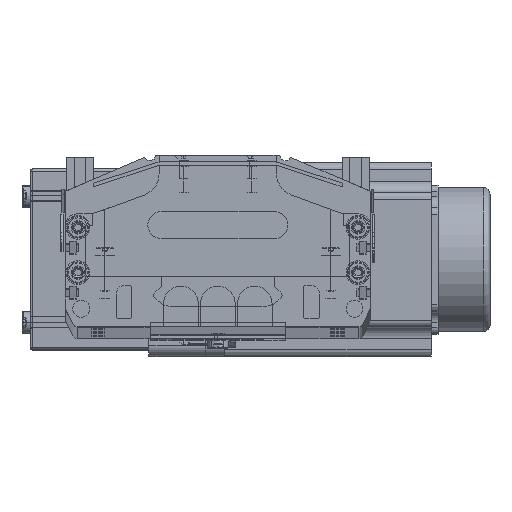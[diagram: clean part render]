
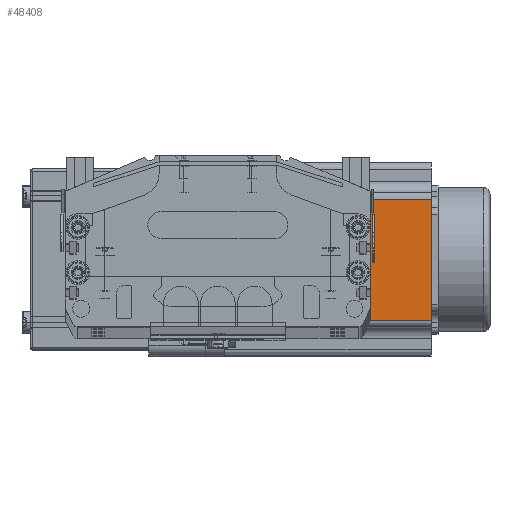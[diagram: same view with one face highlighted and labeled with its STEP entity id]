
A CAD part, top view. The second image highlights one B-rep face of the part: STEP entity #48408.
In plain terms, the highlighted planar face has unit normal (0, 0, 1) as drawn and (-1, 0, 0) by its records, which use the part's own axes.
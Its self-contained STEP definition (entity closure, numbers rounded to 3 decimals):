
#16640 = DIRECTION ( 'NONE',  ( 0., -1., 0. ) ) ;
#16764 = VECTOR ( 'NONE', #16640, 1000. ) ;
#16766 = CARTESIAN_POINT ( 'NONE',  ( 0., 0., 91.5 ) ) ;
#16767 = LINE ( 'NONE', #16766, #16764 ) ;
#16894 = CARTESIAN_POINT ( 'NONE',  ( 0., 16.16, 0. ) ) ;
#17079 = CARTESIAN_POINT ( 'NONE',  ( 0., 0., 91.5 ) ) ;
#17081 = CARTESIAN_POINT ( 'NONE',  ( 0., 69.74, 91.5 ) ) ;
#17090 = DIRECTION ( 'NONE',  ( 0., 0., -1. ) ) ;
#17091 = VECTOR ( 'NONE', #17090, 1000. ) ;
#17099 = CARTESIAN_POINT ( 'NONE',  ( 0., 69.74, 0. ) ) ;
#17113 = FACE_OUTER_BOUND ( 'NONE', #48399, .T. ) ;
#17117 = PLANE ( 'NONE',  #17124 ) ;
#17124 = AXIS2_PLACEMENT_3D ( 'NONE', #17079, #17133, #17132 ) ;
#17132 = DIRECTION ( 'NONE',  ( 0., 0., -1. ) ) ;
#17133 = DIRECTION ( 'NONE',  ( 1., 0., 0. ) ) ;
#17184 = CARTESIAN_POINT ( 'NONE',  ( 0., 69.74, 91.5 ) ) ;
#17185 = LINE ( 'NONE', #17184, #17091 ) ;
#17200 = CARTESIAN_POINT ( 'NONE',  ( 0., 16.16, 91.5 ) ) ;
#17333 = LINE ( 'NONE', #17379, #17378 ) ;
#17377 = DIRECTION ( 'NONE',  ( 0., -1., 0. ) ) ;
#17378 = VECTOR ( 'NONE', #17377, 1000. ) ;
#17379 = CARTESIAN_POINT ( 'NONE',  ( 0., 0., 0. ) ) ;
#17380 = DIRECTION ( 'NONE',  ( 0., 0., 1. ) ) ;
#17381 = VECTOR ( 'NONE', #17380, 1000. ) ;
#17386 = LINE ( 'NONE', #17388, #17381 ) ;
#17388 = CARTESIAN_POINT ( 'NONE',  ( 0., 16.16, 91.5 ) ) ;
#48257 = ORIENTED_EDGE ( 'NONE', *, *, #48500, .T. ) ;
#48271 = EDGE_CURVE ( 'NONE', #48373, #48363, #16767, .T. ) ;
#48299 = ORIENTED_EDGE ( 'NONE', *, *, #48501, .T. ) ;
#48303 = VERTEX_POINT ( 'NONE', #16894 ) ;
#48363 = VERTEX_POINT ( 'NONE', #17200 ) ;
#48373 = VERTEX_POINT ( 'NONE', #17081 ) ;
#48375 = EDGE_CURVE ( 'NONE', #48373, #48392, #17185, .T. ) ;
#48392 = VERTEX_POINT ( 'NONE', #17099 ) ;
#48399 = EDGE_LOOP ( 'NONE', ( #48299, #48257, #48409, #48493 ) ) ;
#48408 = ADVANCED_FACE ( 'NONE', ( #17113 ), #17117, .F. ) ;
#48409 = ORIENTED_EDGE ( 'NONE', *, *, #48271, .F. ) ;
#48493 = ORIENTED_EDGE ( 'NONE', *, *, #48375, .T. ) ;
#48500 = EDGE_CURVE ( 'NONE', #48303, #48363, #17386, .T. ) ;
#48501 = EDGE_CURVE ( 'NONE', #48392, #48303, #17333, .T. ) ;
